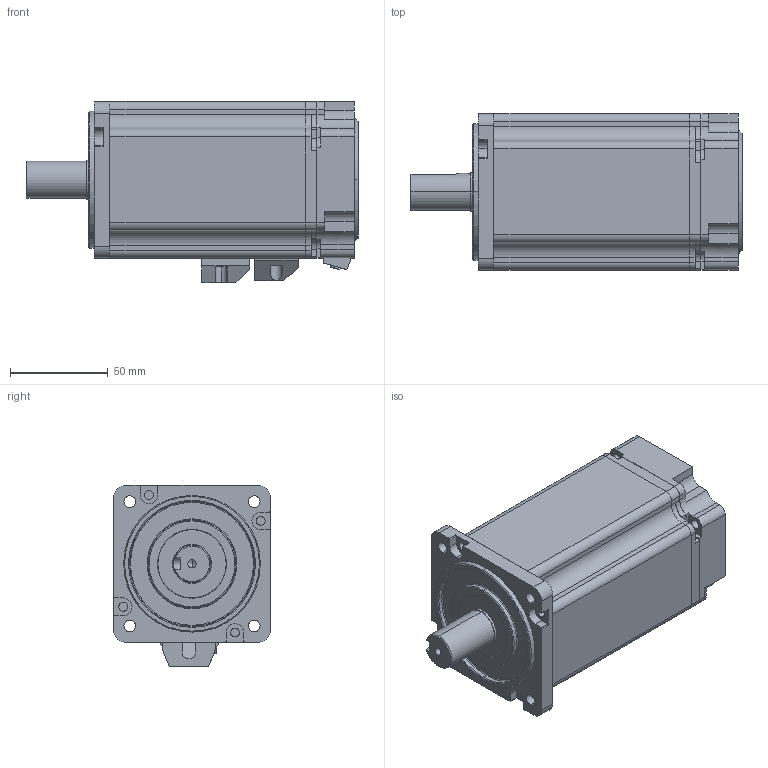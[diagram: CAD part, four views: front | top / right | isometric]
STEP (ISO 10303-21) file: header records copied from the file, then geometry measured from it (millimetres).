
FILE_DESCRIPTION (( 'STEP AP203' ), '1' );
FILE_NAME ('750W惕掅.STEP', '2023-10-23T06:48:57', ( '' ), ( '' ), 'SwSTEP 2.0', 'SolidWorks 2018', '' );
FILE_SCHEMA (( 'CONFIG_CONTROL_DESIGN' ));
Length unit declared in the file: millimetre
Products named in the file (9): 2.4N.M惕掅儂褲; 蚐猾; 1.27N.M蛌粣; 雄薯盄揤啣; 情遴綴欶; 綴裔; 750W惕掅; 85揤啣; ヶ裔
Assembly tree (8 placements, depth 2):
  750W惕掅
    1.27N.M蛌粣
    2.4N.M惕掅儂褲
    雄薯盄揤啣
    綴裔
    ヶ裔
    情遴綴欶
    蚐猾
    85揤啣
Bounding box: 170 x 80.2 x 92.7 mm (x, y, z)
Volume: 244537.1 mm3; surface area: 140369.9 mm2
Topology: 8 solids, 8 shells, 845 faces, 2223 edges, 1368 vertices
Faces by surface type: cylinder 373, plane 292, cone 57, sphere 50, torus 49, bspline 24
Entity records: 27504 total; most frequent: CARTESIAN_POINT 5324, DIRECTION 4721, ORIENTED_EDGE 4318, EDGE_CURVE 2159, AXIS2_PLACEMENT_3D 1839, VERTEX_POINT 1368, VECTOR 1043, LINE 1043
